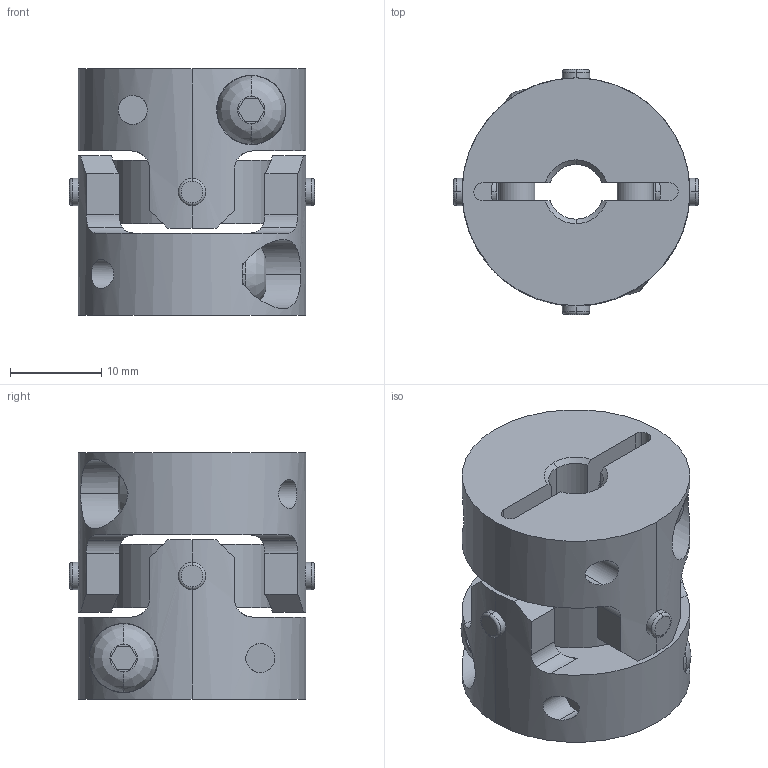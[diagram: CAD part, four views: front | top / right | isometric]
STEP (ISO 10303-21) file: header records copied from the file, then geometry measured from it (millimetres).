
FILE_DESCRIPTION((''),'2;1');
FILE_NAME('UA-25C-6×10.stp','2013-05-16T09:30:15',(''),(''),'AutoCAD STEP 2000i','AutoCAD 2000i',', , ');
FILE_SCHEMA(('CONFIG_CONTROL_DESIGN'));
Length unit declared in the file: millimetre
Products named in the file (7): UA-25C-5×9; 忣兜1; UA-2502-D09; BTN-M4; UA-2502-D05-1; UA-2502-D05; UA25-SEN
Assembly tree (8 placements, depth 3):
  UA-25C-5×9
    忣兜1
    UA-2502-D09
      BTN-M4
    UA-2502-D05-1
      BTN-M4
    UA-2502-D05
      BTN-M4
    UA25-SEN
Bounding box: 26.89 x 26.89 x 27 mm (x, y, z)
Volume: 9064.3 mm3; surface area: 6380.2 mm2
Topology: 1 solids, 1 shells, 208 faces, 562 edges, 368 vertices
Faces by surface type: cylinder 96, plane 80, cone 16, bspline 8, torus 8
Entity records: 8385 total; most frequent: CARTESIAN_POINT 2983, ORIENTED_EDGE 1124, DIRECTION 1084, EDGE_CURVE 562, AXIS2_PLACEMENT_3D 417, VERTEX_POINT 368, VECTOR 250, LINE 250
